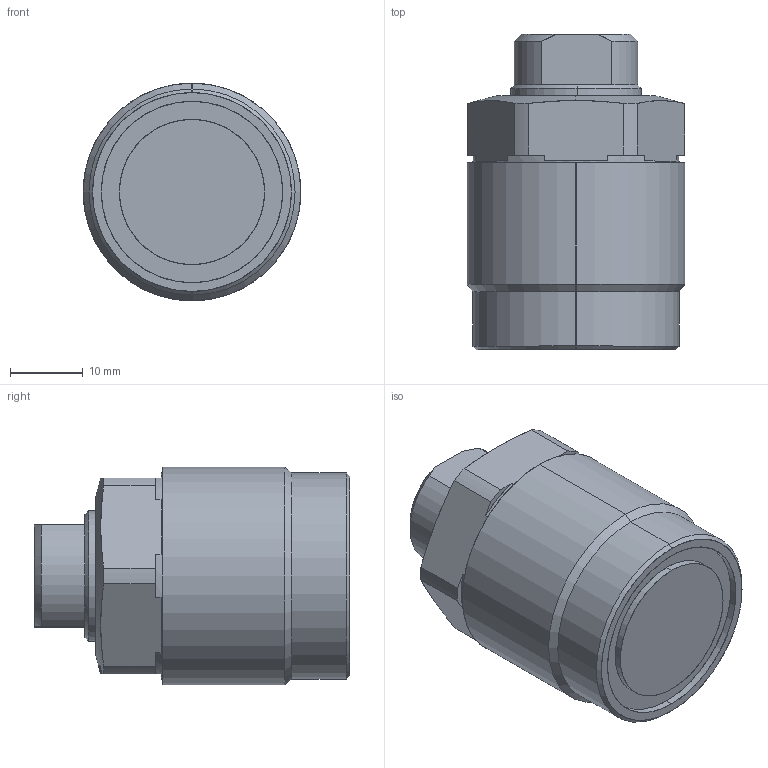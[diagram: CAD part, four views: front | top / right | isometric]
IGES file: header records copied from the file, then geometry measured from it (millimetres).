
Start section: SolidWorks IGES file using analytic representation for surfaces
Global section: file name: D:\karuppas\Clasp\3D model\Thread body cylinder\T03C-M303-S threaded pusher\T03C-M303-S threaded pusher.IGS; native system: SolidWorks 2017; preprocessor: SolidWorks 2017; author: pc; date: 220709.231102; units: millimetre
Bounding box: 30 x 43.5 x 30 mm (x, y, z)
Surface area: 7229.4 mm2 (no closed solid volume)
Topology: 0 solids, 0 shells, 268 faces, 3411 edges, 3409 vertices
Faces by surface type: bspline 232, revolution 36
